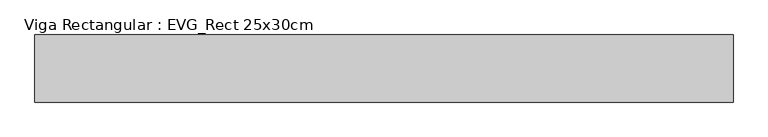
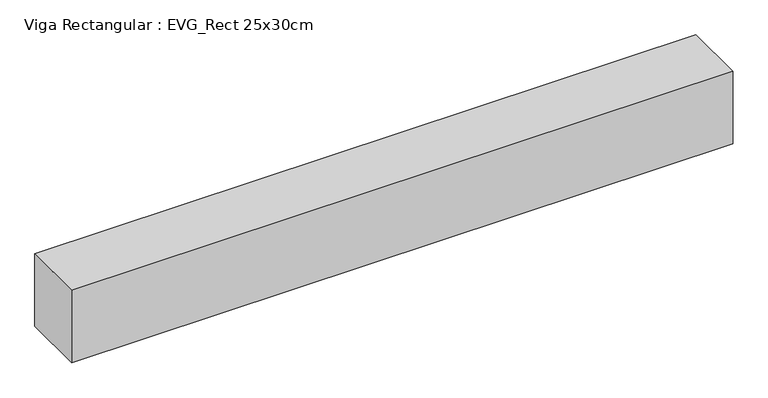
"""IFC4 building model written with IfcOpenShell, lengths in millimetres: beam geometry, Viga Rectangular : EVG_Rect 25x30cm."""

from ifc_helpers import new_model, si_unit, frame, origin, place, context, project, spatial, polyline, outline, extrude, source, transform, mapped, element, save


def viga_rectangular_evg_rect_25x30cm_a66d10a6(model_context):
    return source(origin(), model_context, "Body", "SweptSolid", [
        extrude(outline(polyline([(1300.0, 125.0), (1300.0, -125.0), (-1300.0, -125.0), (-1300.0, 125.0), (1300.0, 125.0)])), frame((0.0, 0.0, -300.0), z_axis=(0.0, 0.0, 1.0), x_axis=(1.0, 0.0, 0.0)), (0.0, 0.0, 1.0), 300.0),
    ])


if __name__ == "__main__":
    model = new_model("IFC4")
    model_context = context("Model", 3, world=origin())
    ifc_project = project(units=[si_unit("LENGTHUNIT", "METRE", prefix="MILLI")], contexts=[model_context])
    site = spatial("IfcSite", under=ifc_project)
    building = spatial("IfcBuilding", under=site)
    placement = place(None, origin())
    viga_rectangular_evg_rect_25x30cm_shape = viga_rectangular_evg_rect_25x30cm_a66d10a6(model_context)
    element("IfcBeam", 1, ObjectType="Viga Rectangular : EVG_Rect 25x30cm", at=placement, inside=building, context=model_context, shape_type="MappedRepresentation", body=[
        mapped(viga_rectangular_evg_rect_25x30cm_shape, transform((0.0, 0.0, 0.0), x_axis=(1.0, 0.0, 0.0), y_axis=(0.0, 1.0, 0.0), z_axis=(0.0, 0.0, 1.0))),
    ])
    save(model, "model.ifc")
